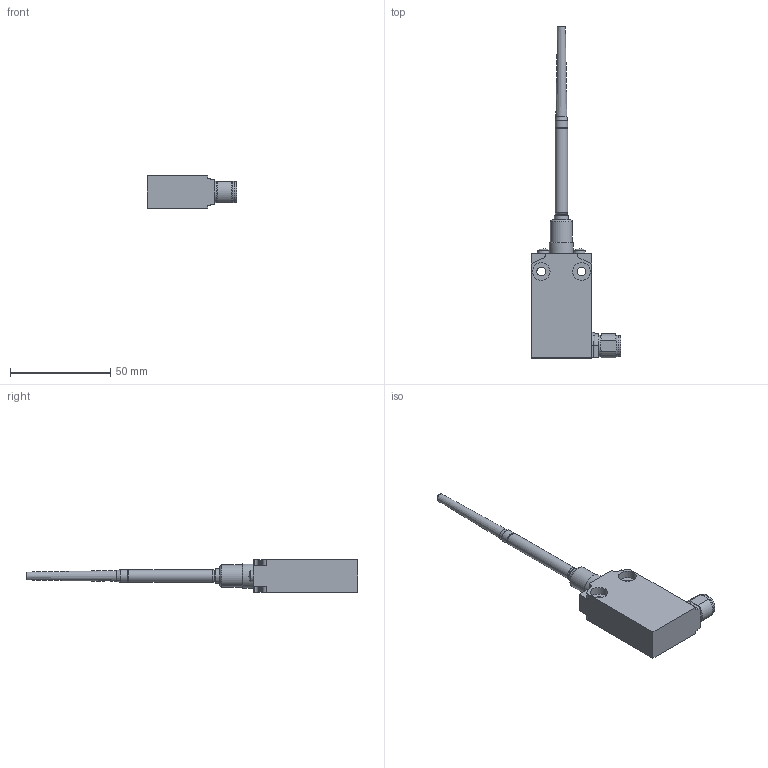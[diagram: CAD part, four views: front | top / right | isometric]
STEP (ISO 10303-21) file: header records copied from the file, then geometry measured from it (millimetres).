
FILE_DESCRIPTION(/* description */ (''),/* implementation_level */ '2;1');
FILE_NAME(/* name */ 'C:\Users\servizio.tecnico\Desktop\CADENAS\3D\EP1_STP\STP_EP1_G92M.stp',/* time_stamp */ '2017-09-04T11:57:17+02:00',/* author */ ('servizio.tecnico'),/* organization */ (''),/* preprocessor_version */ 'ST-DEVELOPER v16.1',/* originating_system */ 'Autodesk Inventor 2016',/* authorisation */ '');
FILE_SCHEMA (('AUTOMOTIVE_DESIGN { 1 0 10303 214 3 1 1 }'));
Length unit declared in the file: millimetre
Products named in the file (3): Product; EP1G92-M; BASE ASSI 
Assembly tree (2 placements, depth 3):
  BASE ASSI 
    EP1G92-M
      Product
Bounding box: 44.5 x 165.2 x 16 mm (x, y, z)
Volume: 29230.4 mm3; surface area: 9992.6 mm2
Topology: 3 solids, 3 shells, 115 faces, 279 edges, 179 vertices
Faces by surface type: plane 55, cylinder 37, cone 14, torus 7, sphere 2
Full cylindrical faces by diameter (mm): 4.4 x2, 5.9 x1, 6.2 x1, 6.25 x1, 7 x1, 8.7 x4, 10.3 x1, 10.6 x2, 11 x1, 12 x1
Entity records: 3254 total; most frequent: DIRECTION 566, CARTESIAN_POINT 557, ORIENTED_EDGE 476, EDGE_CURVE 238, AXIS2_PLACEMENT_3D 224, VERTEX_POINT 167, EDGE_LOOP 157, LINE 118
